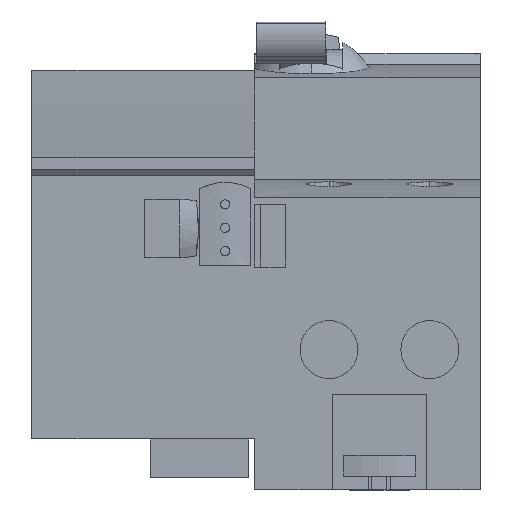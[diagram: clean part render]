
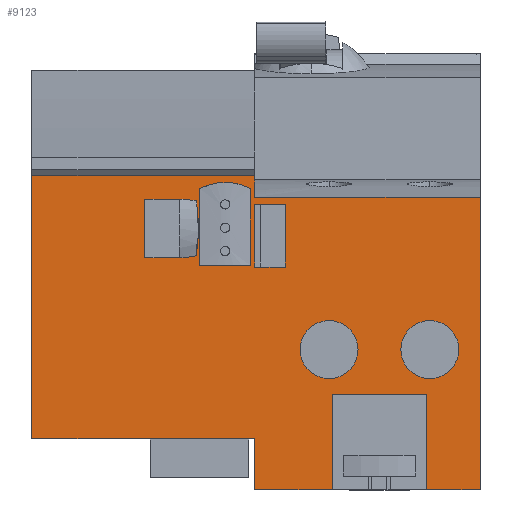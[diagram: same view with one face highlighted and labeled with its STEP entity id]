
A CAD part, front view. The second image highlights one B-rep face of the part: STEP entity #9123.
In plain terms, the highlighted planar face has unit normal (0, -1, 0).
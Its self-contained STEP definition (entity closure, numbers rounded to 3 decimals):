
#22=DIRECTION('',(0.,0.,-1.));
#23=VECTOR('',#22,8.1);
#24=CARTESIAN_POINT('',(35.4,0.792,8.1));
#25=LINE('',#24,#23);
#184=DIRECTION('',(0.,0.,1.));
#185=VECTOR('',#184,10.);
#186=CARTESIAN_POINT('',(35.4,0.792,35.4));
#187=LINE('',#186,#185);
#339=DIRECTION('',(-1.,0.,0.));
#340=VECTOR('',#339,35.4);
#341=CARTESIAN_POINT('',(35.4,0.792,49.872));
#342=LINE('',#341,#340);
#348=DIRECTION('',(0.,0.,1.));
#349=VECTOR('',#348,3.372);
#350=CARTESIAN_POINT('',(35.4,0.792,46.5));
#351=LINE('',#350,#349);
#382=DIRECTION('',(-1.,0.,0.));
#383=VECTOR('',#382,35.8);
#384=CARTESIAN_POINT('',(71.2,0.792,46.5));
#385=LINE('',#384,#383);
#1899=DIRECTION('',(0.,0.,1.));
#1900=VECTOR('',#1899,15.2);
#1901=CARTESIAN_POINT('',(62.7,0.792,0.));
#1902=LINE('',#1901,#1900);
#1903=DIRECTION('',(0.,0.,-1.));
#1904=VECTOR('',#1903,15.2);
#1905=CARTESIAN_POINT('',(47.7,0.792,15.2));
#1906=LINE('',#1905,#1904);
#1907=DIRECTION('',(-1.,0.,0.));
#1908=VECTOR('',#1907,12.3);
#1909=CARTESIAN_POINT('',(47.7,0.792,0.));
#1910=LINE('',#1909,#1908);
#1911=DIRECTION('',(-1.,0.,0.));
#1912=VECTOR('',#1911,35.4);
#1913=CARTESIAN_POINT('',(35.4,0.792,8.1));
#1914=LINE('',#1913,#1912);
#1915=DIRECTION('',(0.,0.,1.));
#1916=VECTOR('',#1915,41.772);
#1917=CARTESIAN_POINT('',(0.,0.792,8.1));
#1918=LINE('',#1917,#1916);
#1919=DIRECTION('',(0.,0.,-1.));
#1920=VECTOR('',#1919,46.5);
#1921=CARTESIAN_POINT('',(71.2,0.792,46.5));
#1922=LINE('',#1921,#1920);
#1923=DIRECTION('',(-1.,0.,0.));
#1924=VECTOR('',#1923,8.5);
#1925=CARTESIAN_POINT('',(71.2,0.792,0.));
#1926=LINE('',#1925,#1924);
#1927=DIRECTION('',(-1.,0.,0.));
#1928=VECTOR('',#1927,4.85);
#1929=CARTESIAN_POINT('',(40.25,0.792,45.4));
#1930=LINE('',#1929,#1928);
#1931=DIRECTION('',(0.,0.,-1.));
#1932=VECTOR('',#1931,8.3);
#1933=CARTESIAN_POINT('',(26.7,0.792,44.8));
#1934=LINE('',#1933,#1932);
#1935=DIRECTION('',(1.,0.,0.));
#1936=VECTOR('',#1935,6.85);
#1937=CARTESIAN_POINT('',(26.7,0.792,36.5));
#1938=LINE('',#1937,#1936);
#1939=DIRECTION('',(-1.,0.,0.));
#1940=VECTOR('',#1939,6.85);
#1941=CARTESIAN_POINT('',(33.55,0.792,44.8));
#1942=LINE('',#1941,#1940);
#1943=DIRECTION('',(0.,0.,1.));
#1944=VECTOR('',#1943,8.5);
#1945=CARTESIAN_POINT('',(23.65,0.792,37.3));
#1946=LINE('',#1945,#1944);
#1947=DIRECTION('',(-1.,0.,0.));
#1948=VECTOR('',#1947,3.2);
#1949=CARTESIAN_POINT('',(23.65,0.792,45.8));
#1950=LINE('',#1949,#1948);
#1951=CARTESIAN_POINT('',(63.2,0.792,22.299));
#1952=DIRECTION('',(0.,-1.,0.));
#1953=DIRECTION('',(1.,0.,0.));
#1954=AXIS2_PLACEMENT_3D('',#1951,#1952,#1953);
#1956=CARTESIAN_POINT('',(63.2,0.792,22.299));
#1957=DIRECTION('',(0.,-1.,0.));
#1958=DIRECTION('',(-1.,0.,0.));
#1959=AXIS2_PLACEMENT_3D('',#1956,#1957,#1958);
#1961=CARTESIAN_POINT('',(47.2,0.792,22.299));
#1962=DIRECTION('',(0.,-1.,0.));
#1963=DIRECTION('',(1.,0.,0.));
#1964=AXIS2_PLACEMENT_3D('',#1961,#1962,#1963);
#1966=CARTESIAN_POINT('',(47.2,0.792,22.299));
#1967=DIRECTION('',(0.,-1.,0.));
#1968=DIRECTION('',(-1.,0.,0.));
#1969=AXIS2_PLACEMENT_3D('',#1966,#1967,#1968);
#1971=DIRECTION('',(1.,0.,0.));
#1972=VECTOR('',#1971,15.);
#1973=CARTESIAN_POINT('',(47.7,0.792,15.2));
#1974=LINE('',#1973,#1972);
#1983=DIRECTION('',(-1.,0.,0.));
#1984=VECTOR('',#1983,4.85);
#1985=CARTESIAN_POINT('',(40.25,0.792,35.4));
#1986=LINE('',#1985,#1984);
#2169=DIRECTION('',(0.,0.,-1.));
#2170=VECTOR('',#2169,10.);
#2171=CARTESIAN_POINT('',(40.25,0.792,45.4));
#2172=LINE('',#2171,#2170);
#2189=DIRECTION('',(0.,0.,-1.));
#2190=VECTOR('',#2189,8.3);
#2191=CARTESIAN_POINT('',(33.55,0.792,44.8));
#2192=LINE('',#2191,#2190);
#2419=DIRECTION('',(0.,0.,1.));
#2420=VECTOR('',#2419,8.5);
#2421=CARTESIAN_POINT('',(20.45,0.792,37.3));
#2422=LINE('',#2421,#2420);
#2455=DIRECTION('',(-1.,0.,0.));
#2456=VECTOR('',#2455,3.2);
#2457=CARTESIAN_POINT('',(23.65,0.792,37.3));
#2458=LINE('',#2457,#2456);
#5292=CARTESIAN_POINT('',(35.4,0.792,8.1));
#5293=VERTEX_POINT('',#5292);
#5294=CARTESIAN_POINT('',(35.4,0.792,0.));
#5295=VERTEX_POINT('',#5294);
#5368=CARTESIAN_POINT('',(35.4,0.792,45.4));
#5369=VERTEX_POINT('',#5368);
#5370=CARTESIAN_POINT('',(40.25,0.792,45.4));
#5371=VERTEX_POINT('',#5370);
#5382=CARTESIAN_POINT('',(35.4,0.792,35.4));
#5383=VERTEX_POINT('',#5382);
#5426=CARTESIAN_POINT('',(0.,0.792,8.1));
#5427=VERTEX_POINT('',#5426);
#5433=CARTESIAN_POINT('',(0.,0.792,49.872));
#5435=VERTEX_POINT('',#5433);
#5446=CARTESIAN_POINT('',(35.4,0.792,49.872));
#5448=VERTEX_POINT('',#5446);
#5450=CARTESIAN_POINT('',(35.4,0.792,46.5));
#5451=VERTEX_POINT('',#5450);
#5462=CARTESIAN_POINT('',(71.2,0.792,46.5));
#5464=VERTEX_POINT('',#5462);
#5500=CARTESIAN_POINT('',(71.2,0.792,0.));
#5501=VERTEX_POINT('',#5500);
#5910=CARTESIAN_POINT('',(47.7,0.792,0.));
#5911=VERTEX_POINT('',#5910);
#5932=CARTESIAN_POINT('',(62.7,0.792,0.));
#5933=VERTEX_POINT('',#5932);
#5934=CARTESIAN_POINT('',(62.7,0.792,15.2));
#5935=VERTEX_POINT('',#5934);
#5950=CARTESIAN_POINT('',(47.7,0.792,15.2));
#5951=VERTEX_POINT('',#5950);
#5952=CARTESIAN_POINT('',(40.25,0.792,35.4));
#5953=VERTEX_POINT('',#5952);
#5954=CARTESIAN_POINT('',(26.7,0.792,44.8));
#5955=CARTESIAN_POINT('',(26.7,0.792,36.5));
#5956=VERTEX_POINT('',#5954);
#5957=VERTEX_POINT('',#5955);
#5958=CARTESIAN_POINT('',(33.55,0.792,36.5));
#5959=VERTEX_POINT('',#5958);
#5960=CARTESIAN_POINT('',(33.55,0.792,44.8));
#5961=VERTEX_POINT('',#5960);
#5962=CARTESIAN_POINT('',(20.45,0.792,37.3));
#5963=CARTESIAN_POINT('',(20.45,0.792,45.8));
#5964=VERTEX_POINT('',#5962);
#5965=VERTEX_POINT('',#5963);
#5966=CARTESIAN_POINT('',(23.65,0.792,37.3));
#5967=VERTEX_POINT('',#5966);
#5968=CARTESIAN_POINT('',(23.65,0.792,45.8));
#5969=VERTEX_POINT('',#5968);
#5970=CARTESIAN_POINT('',(67.8,0.792,22.299));
#5971=CARTESIAN_POINT('',(58.6,0.792,22.299));
#5972=VERTEX_POINT('',#5970);
#5973=VERTEX_POINT('',#5971);
#5974=CARTESIAN_POINT('',(51.8,0.792,22.299));
#5975=CARTESIAN_POINT('',(42.6,0.792,22.299));
#5976=VERTEX_POINT('',#5974);
#5977=VERTEX_POINT('',#5975);
#9062=CARTESIAN_POINT('',(35.4,0.792,46.5));
#9063=DIRECTION('',(0.,-1.,0.));
#9064=DIRECTION('',(0.,0.,-1.));
#9065=AXIS2_PLACEMENT_3D('',#9062,#9063,#9064);
#9066=PLANE('',#9065);
#9067=ORIENTED_EDGE('',*,*,#9028,.T.);
#9069=ORIENTED_EDGE('',*,*,#9068,.F.);
#9071=ORIENTED_EDGE('',*,*,#9070,.T.);
#9072=ORIENTED_EDGE('',*,*,#8980,.T.);
#9073=ORIENTED_EDGE('',*,*,#6796,.F.);
#9074=ORIENTED_EDGE('',*,*,#7061,.T.);
#9075=ORIENTED_EDGE('',*,*,#7127,.T.);
#9076=ORIENTED_EDGE('',*,*,#7153,.F.);
#9077=ORIENTED_EDGE('',*,*,#7168,.F.);
#9078=ORIENTED_EDGE('',*,*,#7193,.F.);
#9079=ORIENTED_EDGE('',*,*,#7256,.T.);
#9080=ORIENTED_EDGE('',*,*,#9040,.T.);
#9081=EDGE_LOOP('',(#9067,#9069,#9071,#9072,#9073,#9074,#9075,#9076,#9077,#9078,
#9079,#9080));
#9082=FACE_OUTER_BOUND('',#9081,.F.);
#9083=ORIENTED_EDGE('',*,*,#6973,.F.);
#9085=ORIENTED_EDGE('',*,*,#9084,.F.);
#9087=ORIENTED_EDGE('',*,*,#9086,.F.);
#9088=ORIENTED_EDGE('',*,*,#6949,.T.);
#9089=EDGE_LOOP('',(#9083,#9085,#9087,#9088));
#9090=FACE_BOUND('',#9089,.F.);
#9092=ORIENTED_EDGE('',*,*,#9091,.T.);
#9094=ORIENTED_EDGE('',*,*,#9093,.T.);
#9096=ORIENTED_EDGE('',*,*,#9095,.F.);
#9098=ORIENTED_EDGE('',*,*,#9097,.T.);
#9099=EDGE_LOOP('',(#9092,#9094,#9096,#9098));
#9100=FACE_BOUND('',#9099,.F.);
#9102=ORIENTED_EDGE('',*,*,#9101,.F.);
#9104=ORIENTED_EDGE('',*,*,#9103,.F.);
#9106=ORIENTED_EDGE('',*,*,#9105,.T.);
#9108=ORIENTED_EDGE('',*,*,#9107,.T.);
#9109=EDGE_LOOP('',(#9102,#9104,#9106,#9108));
#9110=FACE_BOUND('',#9109,.F.);
#9112=ORIENTED_EDGE('',*,*,#9111,.T.);
#9114=ORIENTED_EDGE('',*,*,#9113,.T.);
#9115=EDGE_LOOP('',(#9112,#9114));
#9116=FACE_BOUND('',#9115,.F.);
#9118=ORIENTED_EDGE('',*,*,#9117,.T.);
#9120=ORIENTED_EDGE('',*,*,#9119,.T.);
#9121=EDGE_LOOP('',(#9118,#9120));
#9122=FACE_BOUND('',#9121,.F.);
#1955=CIRCLE('',#1954,4.6);
#1960=CIRCLE('',#1959,4.6);
#1965=CIRCLE('',#1964,4.6);
#1970=CIRCLE('',#1969,4.6);
#6796=EDGE_CURVE('',#5293,#5295,#25,.T.);
#6949=EDGE_CURVE('',#5371,#5369,#1930,.T.);
#6973=EDGE_CURVE('',#5383,#5369,#187,.T.);
#7061=EDGE_CURVE('',#5293,#5427,#1914,.T.);
#7127=EDGE_CURVE('',#5427,#5435,#1918,.T.);
#7153=EDGE_CURVE('',#5448,#5435,#342,.T.);
#7168=EDGE_CURVE('',#5451,#5448,#351,.T.);
#7193=EDGE_CURVE('',#5464,#5451,#385,.T.);
#7256=EDGE_CURVE('',#5464,#5501,#1922,.T.);
#8980=EDGE_CURVE('',#5911,#5295,#1910,.T.);
#9028=EDGE_CURVE('',#5933,#5935,#1902,.T.);
#9040=EDGE_CURVE('',#5501,#5933,#1926,.T.);
#9068=EDGE_CURVE('',#5951,#5935,#1974,.T.);
#9070=EDGE_CURVE('',#5951,#5911,#1906,.T.);
#9084=EDGE_CURVE('',#5953,#5383,#1986,.T.);
#9086=EDGE_CURVE('',#5371,#5953,#2172,.T.);
#9091=EDGE_CURVE('',#5956,#5957,#1934,.T.);
#9093=EDGE_CURVE('',#5957,#5959,#1938,.T.);
#9095=EDGE_CURVE('',#5961,#5959,#2192,.T.);
#9097=EDGE_CURVE('',#5961,#5956,#1942,.T.);
#9101=EDGE_CURVE('',#5964,#5965,#2422,.T.);
#9103=EDGE_CURVE('',#5967,#5964,#2458,.T.);
#9105=EDGE_CURVE('',#5967,#5969,#1946,.T.);
#9107=EDGE_CURVE('',#5969,#5965,#1950,.T.);
#9111=EDGE_CURVE('',#5972,#5973,#1955,.T.);
#9113=EDGE_CURVE('',#5973,#5972,#1960,.T.);
#9117=EDGE_CURVE('',#5976,#5977,#1965,.T.);
#9119=EDGE_CURVE('',#5977,#5976,#1970,.T.);
#9123=ADVANCED_FACE('',(#9082,#9090,#9100,#9110,#9116,#9122),#9066,.T.);
